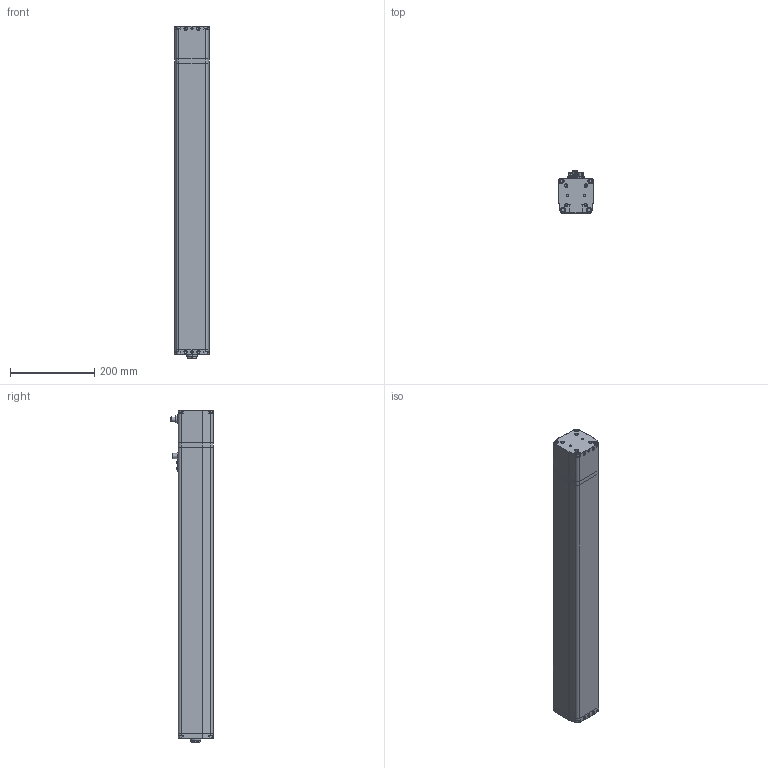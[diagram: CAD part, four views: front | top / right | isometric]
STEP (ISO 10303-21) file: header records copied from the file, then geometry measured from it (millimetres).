
FILE_DESCRIPTION (( 'STEP AP203' ), '1' );
FILE_NAME ('CTC-080-K__-____-_.step', '2023-09-29T10:09:26', ( '' ), ( '' ), 'SwSTEP 2.0', 'SolidWorks 2020', '' );
FILE_SCHEMA (( 'CONFIG_CONTROL_DESIGN' ));
Length unit declared in the file: millimetre
Products named in the file (4): CTC-080-K__-____-_; CTC-080_Schubrohr_Hub 0600; CTC-080_Aufsatz-I_M10; CTC-080_housing_Hub_0600_Bremse
Assembly tree (3 placements, depth 2):
  CTC-080-K__-____-_
    CTC-080_housing_Hub_0600_Bremse
    CTC-080_Schubrohr_Hub 0600
    CTC-080_Aufsatz-I_M10
Bounding box: 82 x 99.6 x 787 mm (x, y, z)
Volume: 4489290.8 mm3; surface area: 537890.8 mm2
Topology: 34 solids, 34 shells, 858 faces, 1912 edges, 1186 vertices
Faces by surface type: cylinder 338, plane 326, cone 102, torus 84, sphere 8
Entity records: 24154 total; most frequent: DIRECTION 4470, CARTESIAN_POINT 4156, ORIENTED_EDGE 3772, EDGE_CURVE 1886, AXIS2_PLACEMENT_3D 1768, VERTEX_POINT 1186, EDGE_LOOP 956, LINE 934
